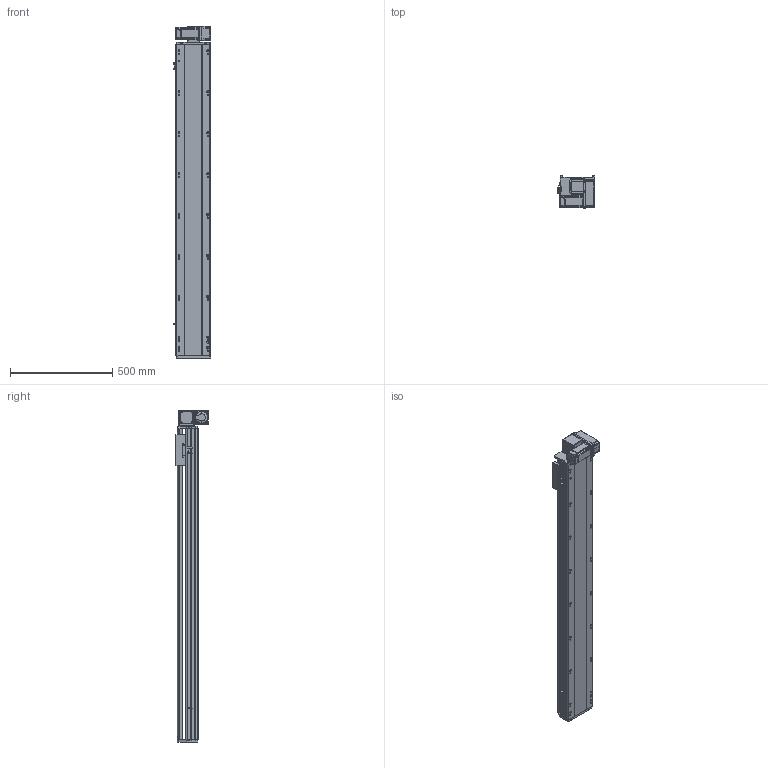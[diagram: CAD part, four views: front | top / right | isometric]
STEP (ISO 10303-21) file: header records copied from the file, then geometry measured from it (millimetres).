
FILE_DESCRIPTION (( 'STEP AP214' ), '1' );
FILE_NAME ('RTB17S-XX-1250-RM-M40-C4.STEP', '2025-12-11T08:17:56', ( '' ), ( '' ), 'SwSTEP 2.0', 'SolidWorks 2018', '' );
FILE_SCHEMA (( 'AUTOMOTIVE_DESIGN' ));
Length unit declared in the file: millimetre
Products named in the file (14): RTB17-R-011菁釱^RTB17S-XX-XX-RM-M40-C4; OMRON EE-SX672 传感器^RTB17S-XX-XX-RM-M40-C4; RTB17S-L-004佪裝蹟譫蟀諉釱^RTB17S-XX-XX-RM-M40-C4; RTB14-L-008-M20--萇儂啣^RTB17S-RM-々湍釱蚾饜-400W_RTB17S-XX-XX-RM-M40-C4; RTB17S-L-001耜醱啣^RTB17S-XX-XX-RM-M40-C4; RTB17S-RM-々湍釱蚾饜-400W^RTB17S-XX-XX-RM-M40-C4; RTB14-L-005P--轴承塑胶压盖^RTB17S-RM-皮带座装配-400W_RTB17S-XX-XX-RM-M40-C4; RTH13-BL-012覜茼え俋离^RTB17S-XX-XX-RM-M40-C4; RTB17S-L-014-T20--々湍釱^RTB17S-RM-々湍釱蚾饜-400W_RTB17S-XX-XX-RM-M40-C4; RTB14-L-018P^RTB17S-RM-々湍釱蚾饜-400W_RTB17S-XX-XX-RM-M40-C4; RTB14-L-017P^RTB17S-RM-々湍釱蚾饜-400W_RTB17S-XX-XX-RM-M40-C4; RTB17S-L-007奻裔^RTB17S-XX-XX-RM-M40-C4; 400W侜督萇儂^RTB17S-XX-XX-RM-M40-C4; RTB17S-XX-1250-RM-M40-C4
Assembly tree (16 placements, depth 3):
  RTB17S-XX-1250-RM-M40-C4
    RTB17-R-011菁釱^RTB17S-XX-XX-RM-M40-C4
    RTB17S-L-007奻裔^RTB17S-XX-XX-RM-M40-C4
    OMRON EE-SX672 传感器^RTB17S-XX-XX-RM-M40-C4  x3
    RTB17S-L-001耜醱啣^RTB17S-XX-XX-RM-M40-C4
    400W侜督萇儂^RTB17S-XX-XX-RM-M40-C4
    RTB17S-L-004佪裝蹟譫蟀諉釱^RTB17S-XX-XX-RM-M40-C4
    RTH13-BL-012覜茼え俋离^RTB17S-XX-XX-RM-M40-C4
    RTB17S-RM-々湍釱蚾饜-400W^RTB17S-XX-XX-RM-M40-C4
      RTB17S-L-014-T20--々湍釱^RTB17S-RM-々湍釱蚾饜-400W_RTB17S-XX-XX-RM-M40-C4
      RTB14-L-005P--轴承塑胶压盖^RTB17S-RM-皮带座装配-400W_RTB17S-XX-XX-RM-M40-C4
      RTB14-L-008-M20--萇儂啣^RTB17S-RM-々湍釱蚾饜-400W_RTB17S-XX-XX-RM-M40-C4
      RTB14-L-017P^RTB17S-RM-々湍釱蚾饜-400W_RTB17S-XX-XX-RM-M40-C4  x2
      RTB14-L-018P^RTB17S-RM-々湍釱蚾饜-400W_RTB17S-XX-XX-RM-M40-C4
Bounding box: 183.5 x 156.5 x 1622.5 mm (x, y, z)
Volume: 14407850.3 mm3; surface area: 1722186.3 mm2
Topology: 15 solids, 15 shells, 2237 faces, 6195 edges, 4041 vertices
Faces by surface type: plane 1072, cylinder 717, bspline 301, cone 139, torus 8
Entity records: 64169 total; most frequent: CARTESIAN_POINT 18000, ORIENTED_EDGE 9234, DIRECTION 8576, EDGE_CURVE 4617, VERTEX_POINT 3029, AXIS2_PLACEMENT_3D 2959, LINE 2658, VECTOR 2658
